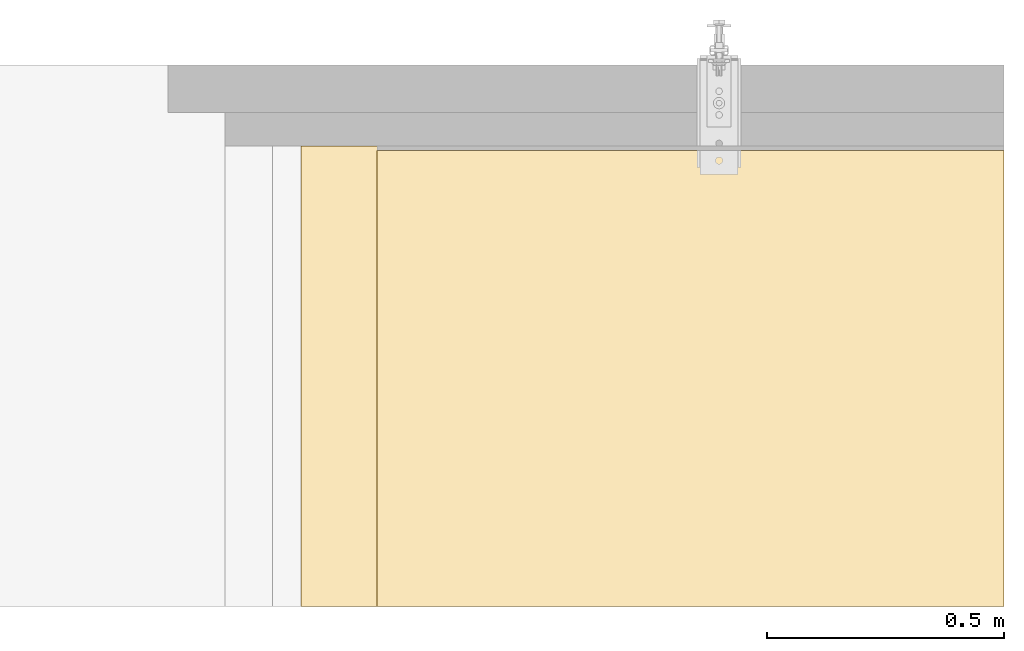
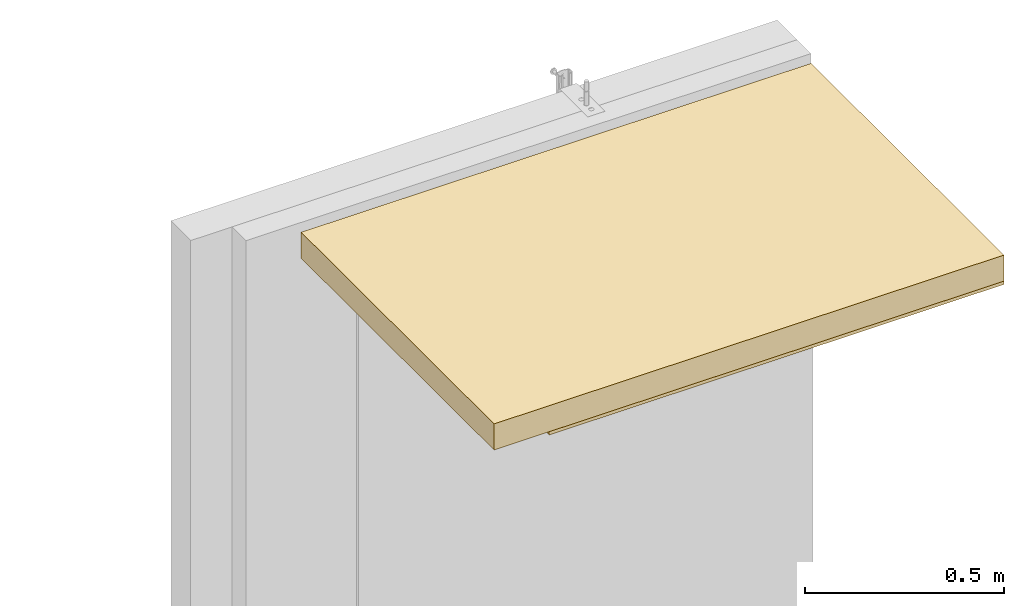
# One storey, part 7 of 7: 2 coverings.
"""IFC2X3 building model written with IfcOpenShell, lengths in metres."""

import ifcopenshell
import ifcopenshell.guid

model = None  # the IFC model being written
_history = None  # IfcOwnerHistory: only IFC2X3 demands one
_inside = {}  # id of a spatial element -> (the spatial element, [elements in it])
_under = {}  # id of a project, library or spatial element -> (it, [spatial elements below it])
_declared = {}  # id of a project -> (the project, [libraries it declares])
_typed = {}  # id of a type object -> (the type object, [elements of that type])
_made_of = {}  # id of a material, layer set ... -> (it, [elements and type objects made of it])


def new_model(schema):
    """Start an empty IFC model of exactly this schema.

    Asked for "IFC4X3", IfcOpenShell would pick the latest addendum, in which some entities
    have other attributes; the version numbers below select the first issue.
    IFC2X3 requires an IfcOwnerHistory on every rooted entity: one is made here for all.
    """
    global model, _history
    if schema == "IFC4X3":
        model = ifcopenshell.file(schema_version=(4, 3, 0, 0))
    else:
        model = ifcopenshell.file(schema=schema)
    _inside.clear()
    _under.clear()
    _declared.clear()
    _typed.clear()
    _made_of.clear()
    _history = None
    if model.schema == "IFC2X3":
        org = make("IfcOrganization", Name="unknown")
        user = make(
            "IfcPersonAndOrganization",
            ThePerson=make("IfcPerson", FamilyName="unknown"),
            TheOrganization=org,
        )
        app = make(
            "IfcApplication",
            ApplicationDeveloper=org,
            Version="unknown",
            ApplicationFullName="unknown",
            ApplicationIdentifier="unknown",
        )
        _history = make(
            "IfcOwnerHistory",
            OwningUser=user,
            OwningApplication=app,
            ChangeAction="ADDED",
            CreationDate=0,
        )
    return model


def make(cls, **values):
    """One entity of the class cls with the attributes given. An attribute that is None is left unset."""
    return model.create_entity(
        cls, **{name: value for name, value in values.items() if value is not None}
    )


def entity(cls, *values):
    """Any entity or typed value of the class cls, its attributes in the order of the schema. None: left unset."""
    e = model.create_entity(cls)
    for i, value in enumerate(values):
        if value is not None:
            e[i] = value
    return e


def rooted(cls, **values):
    """An entity with a GlobalId (a new one), such as an element, a storey or a relation."""
    return make(cls, GlobalId=ifcopenshell.guid.new(), OwnerHistory=_history, **values)


def si_unit(unit_type, name, prefix=None):
    """IfcSIUnit, for example si_unit("LENGTHUNIT", "METRE", prefix="MILLI")."""
    return make("IfcSIUnit", UnitType=unit_type, Prefix=prefix, Name=name)


def converted_unit(unit_type, name, factor, base, dimensions=None, offset=None):
    """IfcConversionBasedUnit, such as the inch: factor (a typed value) times the base unit."""
    return make(
        "IfcConversionBasedUnit"
        if offset is None
        else "IfcConversionBasedUnitWithOffset",
        ConversionOffset=offset,
        Dimensions=None
        if dimensions is None
        else entity("IfcDimensionalExponents", *dimensions),
        UnitType=unit_type,
        Name=name,
        ConversionFactor=make(
            "IfcMeasureWithUnit", ValueComponent=factor, UnitComponent=base
        ),
    )


def derived_unit(unit_type, elements):
    """IfcDerivedUnit: a product of units, each with its exponent."""
    return make(
        "IfcDerivedUnit",
        Elements=[
            make("IfcDerivedUnitElement", Unit=unit, Exponent=power)
            for unit, power in elements
        ],
        UnitType=unit_type,
    )


def assignment(units):
    """IfcUnitAssignment: the units of a project."""
    return None if units is None else make("IfcUnitAssignment", Units=units)


def point(xyz):
    """IfcCartesianPoint."""
    return None if xyz is None else make("IfcCartesianPoint", Coordinates=xyz)


def direction(xyz):
    """IfcDirection."""
    return None if xyz is None else make("IfcDirection", DirectionRatios=xyz)


def frame(location, z_axis=None, x_axis=None):
    """IfcAxis2Placement3D, a coordinate frame: its origin and axes. An axis left out is left unset."""
    return make(
        "IfcAxis2Placement3D",
        Location=point(location),
        Axis=direction(z_axis),
        RefDirection=direction(x_axis),
    )


def frame_2d(location, x_axis=None):
    """IfcAxis2Placement2D, a coordinate frame in the plane: its origin and x axis."""
    return make(
        "IfcAxis2Placement2D", Location=point(location), RefDirection=direction(x_axis)
    )


def origin():
    """The frame at (0, 0, 0) with its axes left unset."""
    return frame((0.0, 0.0, 0.0))


def place(relative_to, where):
    """IfcLocalPlacement: puts the frame where relative to a parent placement (None: the world)."""
    return make(
        "IfcLocalPlacement", PlacementRelTo=relative_to, RelativePlacement=where
    )


def context(
    kind, dimensions, precision=None, world=None, true_north=None, identifier=None
):
    """IfcGeometricRepresentationContext, for example the 3D "Model" context."""
    return make(
        "IfcGeometricRepresentationContext",
        ContextIdentifier=identifier,
        ContextType=kind,
        CoordinateSpaceDimension=dimensions,
        Precision=precision,
        WorldCoordinateSystem=world,
        TrueNorth=true_north,
    )


def subcontext(parent, identifier, kind, view, scale=None):
    """IfcGeometricRepresentationSubContext, for example "Body" below "Model"."""
    return make(
        "IfcGeometricRepresentationSubContext",
        ContextIdentifier=identifier,
        ContextType=kind,
        ParentContext=parent,
        TargetScale=scale,
        TargetView=view,
    )


def project(units=None, contexts=None):
    """IfcProject with its units and contexts."""
    return rooted(
        "IfcProject",
        Name="project",
        RepresentationContexts=contexts,
        UnitsInContext=assignment(units),
    )


def spatial(cls, under=None, at=None, **own):
    """A site, building, storey or space (cls), placed at a placement, below another one or the project."""
    s = rooted(cls, ObjectPlacement=at, **own)
    if under is not None:
        _under.setdefault(under.id(), (under, []))[1].append(s)
    return s


def profile(cls, at=None, kind="AREA", **sizes):
    """A parametric profile (cls). Its sizes go by their IFC names, for example OverallWidth=200.0."""
    return make(cls, ProfileType=kind, Position=at, **sizes)


def rectangle(**sizes):
    """IfcRectangleProfileDef."""
    return profile("IfcRectangleProfileDef", **sizes)


def extrude(swept, where, along, depth):
    """IfcExtrudedAreaSolid: the profile swept, set in the frame where, extruded along a direction by depth."""
    return make(
        "IfcExtrudedAreaSolid",
        SweptArea=swept,
        Position=where,
        ExtrudedDirection=direction(along),
        Depth=depth,
    )


def shape(context_of_items, identifier, shape_type, items):
    """IfcShapeRepresentation: the items that make up one representation, for example the "Body"."""
    return make(
        "IfcShapeRepresentation",
        ContextOfItems=context_of_items,
        RepresentationIdentifier=identifier,
        RepresentationType=shape_type,
        Items=items,
    )


def material(Name=None, Category=None):
    """IfcMaterial."""
    return make("IfcMaterial", Name=Name, Category=Category)


def layer(
    of_material, thickness, ventilated=None, Name=None, Category=None, Priority=None
):
    """IfcMaterialLayer: one layer of a wall or slab, of a material (None: an air gap)."""
    return make(
        "IfcMaterialLayer",
        Material=of_material,
        LayerThickness=thickness,
        IsVentilated=ventilated,
        Name=Name,
        Category=Category,
        Priority=Priority,
    )


def layer_set(layers, Name=None):
    """IfcMaterialLayerSet."""
    return make("IfcMaterialLayerSet", MaterialLayers=layers, LayerSetName=Name)


def layer_usage(for_layer_set, set_direction, sense, offset, extent=None):
    """IfcMaterialLayerSetUsage: how a layer set lies in its element."""
    return make(
        "IfcMaterialLayerSetUsage",
        ForLayerSet=for_layer_set,
        LayerSetDirection=set_direction,
        DirectionSense=sense,
        OffsetFromReferenceLine=offset,
        ReferenceExtent=extent,
    )


def made_of(thing, what):
    """Note that an element or type object is made of a material, layer set ...; save() writes the relation."""
    if what is not None:
        _made_of.setdefault(what.id(), (what, []))[1].append(thing)
    return thing


def type_object(cls, material=None, **own):
    """A type object (cls), such as IfcWallType, which elements share."""
    return made_of(rooted(cls, **own), material)


def element(
    cls,
    number,
    at=None,
    inside=None,
    cuts=None,
    type_object=None,
    material=None,
    context=None,
    identifier="Body",
    shape_type=None,
    held_by="IfcProductDefinitionShape",
    body=None,
    shapes=None,
    **own,
):
    """One element of the class cls, such as IfcWall. Its Tag is "e" and its number.

    at: its placement. inside: the storey or other place that contains it. cuts: it is an
    opening in that element (IfcRelVoidsElement). A single representation is given by context,
    identifier, shape_type and body (its items); several are given by shapes. held_by: the class
    of the entity that holds the representations. save() writes the other relations.
    """
    e = rooted(cls, Tag="e%d" % number, ObjectPlacement=at, **own)
    if body is not None:
        shapes = [shape(context, identifier, shape_type, body)]
    if shapes is not None:
        e.Representation = make(held_by, Representations=shapes)
    if inside is not None:
        _inside.setdefault(inside.id(), (inside, []))[1].append(e)
    if cuts is not None:
        rooted(
            "IfcRelVoidsElement", RelatingBuildingElement=cuts, RelatedOpeningElement=e
        )
    if type_object is not None:
        _typed.setdefault(type_object.id(), (type_object, []))[1].append(e)
    return made_of(e, material)


def aggregate(whole, parts):
    """IfcRelAggregates: a whole, such as a stair, and the parts it consists of."""
    return rooted("IfcRelAggregates", RelatingObject=whole, RelatedObjects=parts)


def save(model, path):
    """Write the relations noted so far, then the file.

    IfcRelAggregates (storeys below a building ...), IfcRelContainedInSpatialStructure (elements
    in a storey), IfcRelDefinesByType, IfcRelAssociatesMaterial and IfcRelDeclares: one each for
    every whole, place, type object, material and project.
    """
    for whole, parts in _under.values():
        aggregate(whole, parts)
    for where, things in _inside.values():
        rooted(
            "IfcRelContainedInSpatialStructure",
            RelatedElements=things,
            RelatingStructure=where,
        )
    for kind, things in _typed.values():
        rooted("IfcRelDefinesByType", RelatedObjects=things, RelatingType=kind)
    for what, things in _made_of.values():
        rooted("IfcRelAssociatesMaterial", RelatedObjects=things, RelatingMaterial=what)
    for by, libraries in _declared.values():
        rooted("IfcRelDeclares", RelatingContext=by, RelatedDefinitions=libraries)
    model.write(path)


model = new_model("IFC2X3")

# Units and contexts
model_context = context("Model", 3, precision=1e-05, world=origin(), true_north=direction((6.123031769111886e-17, 1.0)))
body_context = subcontext(model_context, "Body", "Model", "MODEL_VIEW")
ifc_project = project(units=[si_unit("LENGTHUNIT", "METRE"), si_unit("AREAUNIT", "SQUARE_METRE"), converted_unit("PLANEANGLEUNIT", "DEGREE", entity("IfcPlaneAngleMeasure", 0.017453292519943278), si_unit("PLANEANGLEUNIT", "RADIAN"), dimensions=[0, 0, 0, 0, 0, 0, 0]), si_unit("VOLUMEUNIT", "CUBIC_METRE"), derived_unit("THERMALTRANSMITTANCEUNIT", [(si_unit("MASSUNIT", "GRAM", prefix="KILO"), 1), (si_unit("THERMODYNAMICTEMPERATUREUNIT", "KELVIN"), -1), (si_unit("TIMEUNIT", "SECOND"), -3)]), derived_unit("USERDEFINED", [(si_unit("MASSUNIT", "GRAM", prefix="KILO"), 1), (si_unit("THERMODYNAMICTEMPERATUREUNIT", "KELVIN"), -1), (si_unit("TIMEUNIT", "SECOND"), -2)]), derived_unit("THERMALRESISTANCEUNIT", [(si_unit("MASSUNIT", "GRAM", prefix="KILO"), -1), (si_unit("TIMEUNIT", "SECOND"), 3), (si_unit("THERMODYNAMICTEMPERATUREUNIT", "KELVIN"), 1)]), derived_unit("MASSDENSITYUNIT", [(si_unit("MASSUNIT", "GRAM", prefix="KILO"), 1), (si_unit("LENGTHUNIT", "METRE"), -3)]), derived_unit("VAPORPERMEABILITYUNIT", [(si_unit("LENGTHUNIT", "METRE"), -1), (si_unit("TIMEUNIT", "SECOND"), 1)]), derived_unit("USERDEFINED", [(si_unit("MASSUNIT", "GRAM", prefix="KILO"), 1), (si_unit("TIMEUNIT", "SECOND"), -3), (si_unit("LENGTHUNIT", "METRE"), 3), (si_unit("ELECTRICCURRENTUNIT", "AMPERE"), -2)]), si_unit("PRESSUREUNIT", "PASCAL")], contexts=[model_context])

# Site, building, storey
site_placement = place(None, origin())
site = spatial("IfcSite", under=ifc_project, at=site_placement, Name="Default", CompositionType="ELEMENT")
building_placement = place(site_placement, origin())
building = spatial("IfcBuilding", under=site, at=building_placement, CompositionType="ELEMENT")
storey_placement = place(building_placement, origin())
storey = spatial("IfcBuildingStorey", under=building, at=storey_placement, Name="L0", CompositionType="ELEMENT", Elevation=0.0)

# Coverings
ifc_material_1 = material(Name="Lana de roca")
ifc_layer_1 = layer(ifc_material_1, 0.08)
ifc_layer_set_1 = layer_set([ifc_layer_1], Name="Techo compuesto:Aislamiento")
ifc_layer_usage_1 = layer_usage(ifc_layer_set_1, "AXIS3", "NEGATIVE", 0.08)
covering_type_1 = type_object("IfcCoveringType", Name="Techo compuesto:Aislamiento", PredefinedType="CEILING")
covering_1_placement = place(storey_placement, frame((6.407720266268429, 14.794530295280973, 2.61)))
element("IfcCovering", 1, at=covering_1_placement, inside=storey, type_object=covering_type_1, material=ifc_layer_usage_1, Name="Techo compuesto:Aislamiento", ObjectType="Techo compuesto:Aislamiento", PredefinedType="CEILING", context=body_context, shape_type="SweptSolid", body=[
    extrude(rectangle(XDim=0.9700000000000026, YDim=1.4799999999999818, at=frame_2d((1.0824674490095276e-15, -1.0547118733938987e-15), x_axis=(1.0, 0.0))), frame((0.7399999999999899, 0.4850000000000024, 0.0), z_axis=(0.0, 0.0, 1.0), x_axis=(0.0, 1.0, 0.0)), (0.0, 0.0, 1.0), 0.08000000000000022),
])
ifc_material_2 = material(Name="Enlucido")
ifc_layer_2 = layer(ifc_material_2, 0.01)
ifc_layer_set_2 = layer_set([ifc_layer_2], Name="Techo compuesto:Placa")
ifc_layer_usage_2 = layer_usage(ifc_layer_set_2, "AXIS3", "NEGATIVE", 0.01)
covering_type_2 = type_object("IfcCoveringType", Name="Techo compuesto:Placa", PredefinedType="CEILING")
covering_2_placement = place(storey_placement, frame((6.56772026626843, 14.794530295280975, 2.6)))
element("IfcCovering", 2, at=covering_2_placement, inside=storey, type_object=covering_type_2, material=ifc_layer_usage_2, Name="Techo compuesto:Placa", ObjectType="Techo compuesto:Placa", PredefinedType="CEILING", context=body_context, shape_type="SweptSolid", body=[
    extrude(rectangle(XDim=0.959999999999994, YDim=1.3199999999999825, at=frame_2d((0.0, 5.551115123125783e-16), x_axis=(1.0, 0.0))), frame((0.6599999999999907, 0.479999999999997, 0.0), z_axis=(0.0, 0.0, 1.0), x_axis=(0.0, 1.0, 0.0)), (0.0, 0.0, 1.0), 0.009999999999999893),
])

save(model, "model.ifc")
